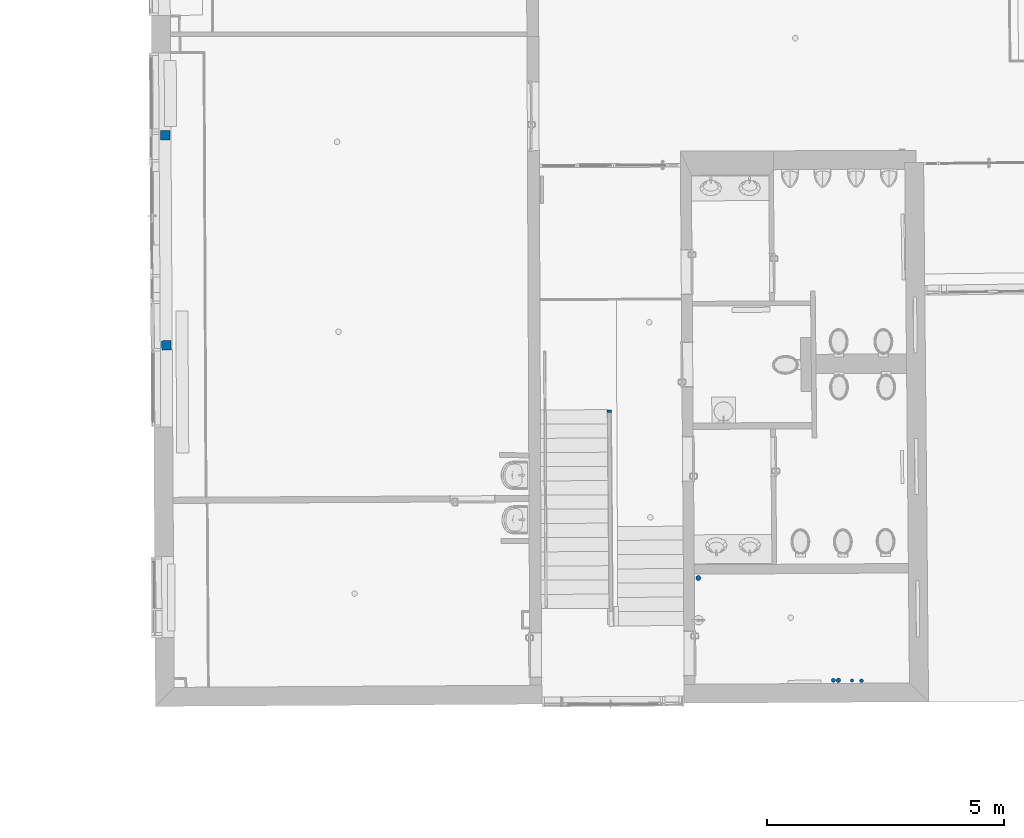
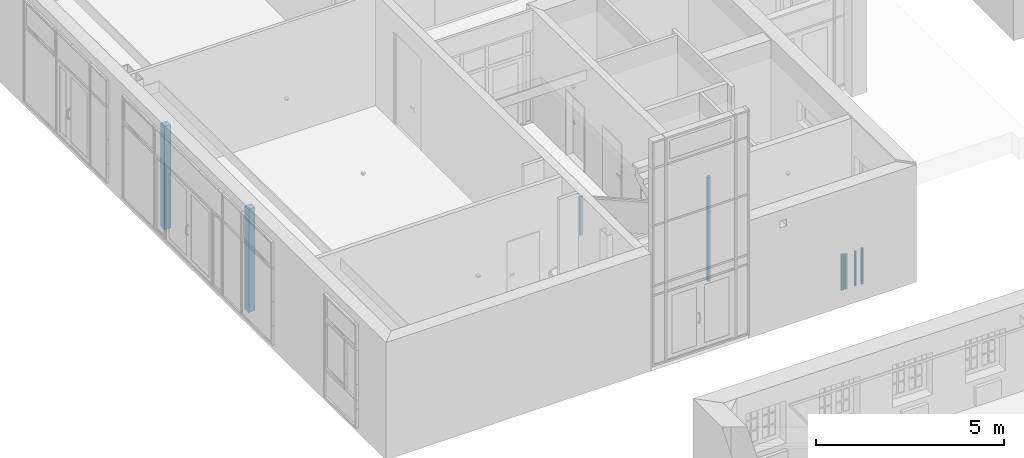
# One storey, part 1 of 196: 8 columns.
"""IFC2X3 building model written with IfcOpenShell, lengths in metres."""

from ifc_helpers import new_model, entity, si_unit, converted_unit, derived_unit, money_unit, direction, frame, origin_with_axes, origin_2d_with_axis, place, context, subcontext, project, spatial, rectangle, circle, extrude, material, type_object, element, save


model = new_model("IFC2X3")

# Units and contexts
model_context = context("Model", 3, precision=1e-05, world=origin_with_axes(), true_north=direction((0.0, 1.0)))
body_context = subcontext(model_context, "Body", "Model", "MODEL_VIEW")
ifc_project = project(units=[si_unit("LENGTHUNIT", "METRE"), si_unit("AREAUNIT", "SQUARE_METRE"), si_unit("VOLUMEUNIT", "CUBIC_METRE"), converted_unit("PLANEANGLEUNIT", "DEGREE", entity("IfcPlaneAngleMeasure", 0.0174532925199), si_unit("PLANEANGLEUNIT", "RADIAN"), dimensions=[0, 0, 0, 0, 0, 0, 0]), money_unit("EUR"), converted_unit("TIMEUNIT", "Year", entity("IfcTimeMeasure", 31556926.0), si_unit("TIMEUNIT", "SECOND"), dimensions=[0, 0, 1, 0, 0, 0, 0]), si_unit("MASSUNIT", "GRAM", prefix="KILO"), si_unit("THERMODYNAMICTEMPERATUREUNIT", "DEGREE_CELSIUS"), si_unit("LUMINOUSINTENSITYUNIT", "LUMEN"), si_unit("ENERGYUNIT", "JOULE", prefix="MEGA"), derived_unit("THERMALCONDUCTANCEUNIT", [(si_unit("POWERUNIT", "WATT"), 1), (si_unit("LENGTHUNIT", "METRE"), -1), (si_unit("THERMODYNAMICTEMPERATUREUNIT", "KELVIN"), -1)]), derived_unit("SPECIFICHEATCAPACITYUNIT", [(si_unit("ENERGYUNIT", "JOULE"), 1), (si_unit("MASSUNIT", "GRAM", prefix="KILO"), -1), (si_unit("THERMODYNAMICTEMPERATUREUNIT", "KELVIN"), -1)]), derived_unit("MASSDENSITYUNIT", [(si_unit("MASSUNIT", "GRAM", prefix="KILO"), 1), (si_unit("VOLUMEUNIT", "CUBIC_METRE"), -1)])], contexts=[model_context])

# Site, building, storey
site_placement = place(None, origin_with_axes())
site = spatial("IfcSite", under=ifc_project, at=site_placement, Name="Gelände", CompositionType="ELEMENT")
building_placement = place(site_placement, origin_with_axes())
building = spatial("IfcBuilding", under=site, at=building_placement, Name="Gebäude", CompositionType="ELEMENT")
storey_placement = place(building_placement, frame((0.0, 0.0, -3.0), z_axis=(0.0, 0.0, 1.0), x_axis=(1.0, 0.0, 0.0)))
storey = spatial("IfcBuildingStorey", under=building, at=storey_placement, Name="KELLERGESCHOSS", CompositionType="ELEMENT", Elevation=-3.0)

# Columns
ifc_material = material(Name="05_ALLGEMEIN - TRAGENDE BAUTEILE")
column_type_1 = type_object("IfcColumnType", Name="05_ALLGEMEIN - TRAGENDE BAUTEILE D106", PredefinedType="COLUMN")
column_1_placement = place(storey_placement, frame((-23.3438194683, 33.5533737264, 0.419766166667), z_axis=(0.0, 0.0, 1.0), x_axis=(1.0, 0.0, 0.0)))
element("IfcColumn", 1, at=column_1_placement, inside=storey, type_object=column_type_1, material=ifc_material, Name="Stütze-008", ObjectType="COLUMN", context=body_context, shape_type="SweptSolid", body=[
    extrude(circle(Radius=0.0532113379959, at=origin_2d_with_axis()), origin_with_axes(), (0.0, 0.0, 1.0), 3.38023383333),
])
column_type_2 = type_object("IfcColumnType", Name="05_ALLGEMEIN - TRAGENDE BAUTEILE 90 x 50", PredefinedType="COLUMN")
column_2_placement = place(storey_placement, frame((-25.2275488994, 37.0768050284, 0.417758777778), z_axis=(0.0, 0.0, 1.0), x_axis=(1.0, 0.0, 0.0)))
element("IfcColumn", 2, at=column_2_placement, inside=storey, type_object=column_type_2, material=ifc_material, Name="Stütze-008", ObjectType="COLUMN", context=body_context, shape_type="SweptSolid", body=[
    extrude(rectangle(XDim=0.09, YDim=0.05, at=origin_2d_with_axis()), frame((0.0, 0.0, 0.0), z_axis=(0.0, 0.0, 1.0), x_axis=(-0.999823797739, -0.0187716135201, 0.0)), (0.0, 0.0, 1.0), 1.25582233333),
])
column_type_3 = type_object("IfcColumnType", Name="05_ALLGEMEIN - TRAGENDE BAUTEILE D86", PredefinedType="COLUMN")
column_3_placement = place(storey_placement, frame((-20.4905213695, 31.3931136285, 0.428395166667), z_axis=(0.0, 0.0, 1.0), x_axis=(1.0, 0.0, 0.0)))
element("IfcColumn", 3, at=column_3_placement, inside=storey, type_object=column_type_3, material=ifc_material, Name="Stütze-008", ObjectType="COLUMN", context=body_context, shape_type="SweptSolid", body=[
    extrude(circle(Radius=0.0428708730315, at=origin_2d_with_axis()), origin_with_axes(), (0.0, 0.0, 1.0), 1.161301),
])
column_type_4 = type_object("IfcColumnType", Name="05_ALLGEMEIN - TRAGENDE BAUTEILE D96", PredefinedType="COLUMN")
column_4_placement = place(storey_placement, frame((-20.3836619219, 31.3915465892, 0.428395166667), z_axis=(0.0, 0.0, 1.0), x_axis=(1.0, 0.0, 0.0)))
element("IfcColumn", 4, at=column_4_placement, inside=storey, type_object=column_type_4, material=ifc_material, Name="Stütze-008", ObjectType="COLUMN", context=body_context, shape_type="SweptSolid", body=[
    extrude(circle(Radius=0.0478485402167, at=origin_2d_with_axis()), origin_with_axes(), (0.0, 0.0, 1.0), 1.12261759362),
])
column_type_5 = type_object("IfcColumnType", Name="05_ALLGEMEIN - TRAGENDE BAUTEILE D69", PredefinedType="COLUMN")
column_5_placement = place(storey_placement, frame((-20.096951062, 31.389431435, 0.428395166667), z_axis=(0.0, 0.0, 1.0), x_axis=(1.0, 0.0, 0.0)))
element("IfcColumn", 5, at=column_5_placement, inside=storey, type_object=column_type_5, material=ifc_material, Name="Stütze-008", ObjectType="COLUMN", context=body_context, shape_type="SweptSolid", body=[
    extrude(circle(Radius=0.0345053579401, at=origin_2d_with_axis()), origin_with_axes(), (0.0, 0.0, 1.0), 1.12261759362),
])
column_type_6 = type_object("IfcColumnType", Name="05_ALLGEMEIN - TRAGENDE BAUTEILE 200 x 200", PredefinedType="COLUMN")
column_6_placement = place(storey_placement, frame((-34.5831322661, 38.4704470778, 0.417758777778), z_axis=(0.0, 0.0, 1.0), x_axis=(1.0, 0.0, 0.0)))
element("IfcColumn", 6, at=column_6_placement, inside=storey, type_object=column_type_6, material=ifc_material, Name="Stütze-008", ObjectType="COLUMN", context=body_context, shape_type="SweptSolid", body=[
    extrude(rectangle(XDim=0.2, YDim=0.2, at=origin_2d_with_axis()), frame((0.0, 0.0, 0.0), z_axis=(0.0, 0.0, 1.0), x_axis=(-0.0456660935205, 0.998956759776, 0.0)), (0.0, 0.0, 1.0), 3.35326673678),
])
column_7_placement = place(storey_placement, frame((-34.6044370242, 42.9096715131, 0.417758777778), z_axis=(0.0, 0.0, 1.0), x_axis=(1.0, 0.0, 0.0)))
element("IfcColumn", 7, at=column_7_placement, inside=storey, type_object=column_type_6, material=ifc_material, Name="Stütze-008", ObjectType="COLUMN", context=body_context, shape_type="SweptSolid", body=[
    extrude(rectangle(XDim=0.2, YDim=0.2, at=origin_2d_with_axis()), frame((0.0, 0.0, 0.0), z_axis=(0.0, 0.0, 1.0), x_axis=(-0.0107725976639, 0.999941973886, 0.0)), (0.0, 0.0, 1.0), 3.35326673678),
])
column_type_7 = type_object("IfcColumnType", Name="05_ALLGEMEIN - TRAGENDE BAUTEILE D82", PredefinedType="COLUMN")
column_8_placement = place(storey_placement, frame((-19.8960344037, 31.3839215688, 0.428395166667), z_axis=(0.0, 0.0, 1.0), x_axis=(1.0, 0.0, 0.0)))
element("IfcColumn", 8, at=column_8_placement, inside=storey, type_object=column_type_7, material=ifc_material, Name="Stütze-008", ObjectType="COLUMN", context=body_context, shape_type="SweptSolid", body=[
    extrude(circle(Radius=0.0408433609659, at=origin_2d_with_axis()), origin_with_axes(), (0.0, 0.0, 1.0), 1.161301),
])

save(model, "model.ifc")
